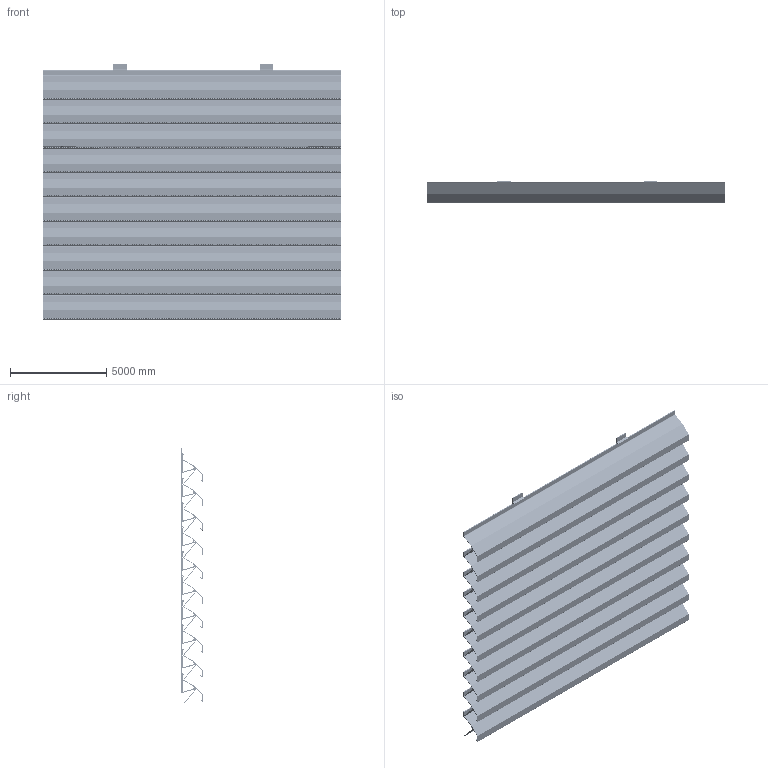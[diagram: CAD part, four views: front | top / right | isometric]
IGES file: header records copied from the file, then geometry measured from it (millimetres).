
Global section: file name: 3D_L_050IM1; native system: AutoCAD 2023 - English; preprocessor: Autodesk Translation Framework DWG producer (atf_dwg_producer); organization: unknown; date: 20260202.112246; units: inch
Bounding box: 15519.4 x 1092.2 x 13261.61 mm (x, y, z)
Volume: 16933752935.9 mm3; surface area: 979952521.6 mm2
Topology: 30 solids, 30 shells, 11990 faces, 35790 edges, 23860 vertices
Faces by surface type: bspline 11990
